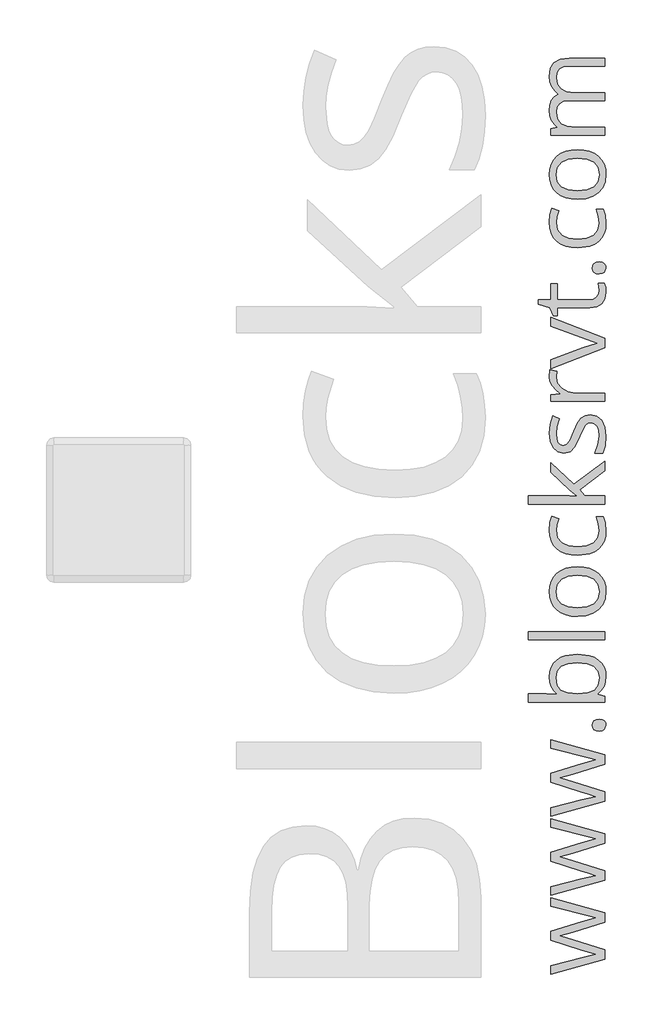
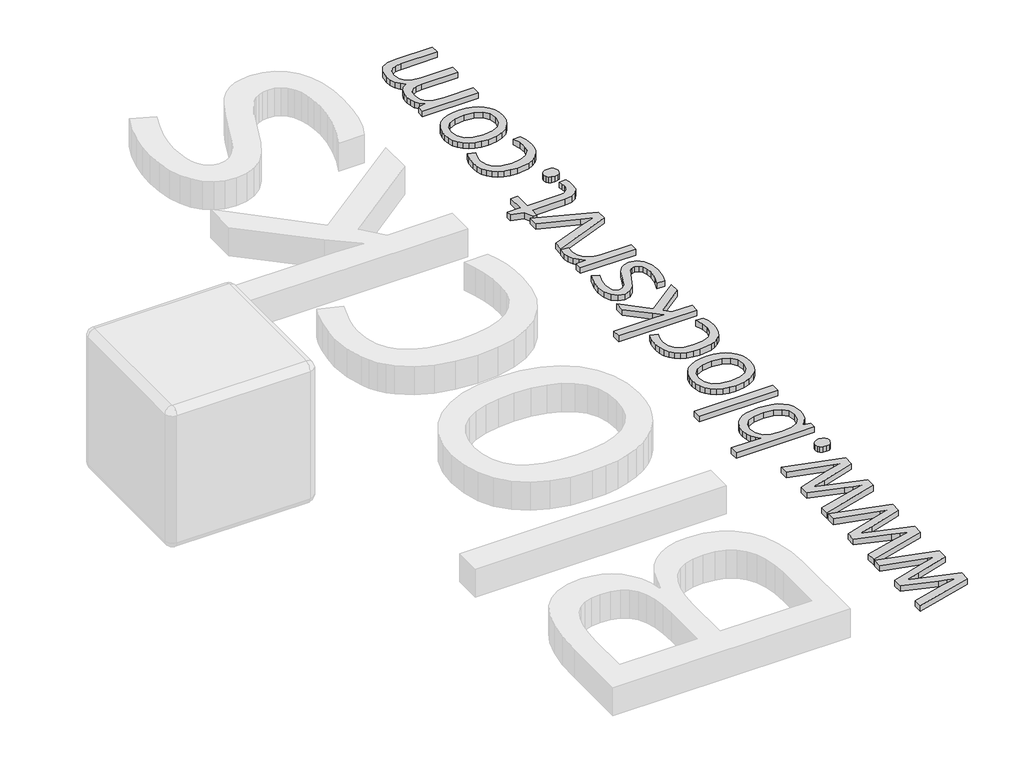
# One storey, part 8 of 8: 1 proxy.
"""IFC4 building model written with IfcOpenShell, lengths in millimetres."""

from ifc_helpers import new_model, si_unit, origin, origin_with_axes, place, context, project, spatial, polyline, outline, extrude, element, save

model = new_model("IFC4")

# Units and contexts
model_context = context("Model", 3, world=origin())
ifc_project = project(units=[si_unit("LENGTHUNIT", "METRE", prefix="MILLI")], contexts=[model_context])

# Site, building, storey
site = spatial("IfcSite", under=ifc_project)
building = spatial("IfcBuilding", under=site)
storey = spatial("IfcBuildingStorey", under=building, Name="PORTOBELLO - SHOWROOM", Elevation=0.0)

# Proxy
placement = place(None, origin())
element("IfcBuildingElementProxy", 1, Name="25mm OpenSans", ObjectType="25mm OpenSans", at=placement, inside=storey, context=model_context, shape_type="SweptSolid", body=[
    extrude(outline(polyline([(237125.9828814, 6871.3276215), (237016.1712381, 6836.8475151), (236970.4476187, 6824.6295643), (237016.5460218, 6811.2123055), (237125.9828814, 6775.6828045), (237125.9828814, 6742.7767899), (236938.8908256, 6691.431414), (236938.8908256, 6721.2642018), (237046.2288961, 6748.9982004), (237095.9252234, 6759.9418864), (237070.7397544, 6767.3626049), (237046.2288961, 6774.7083667), (236938.8908256, 6809.1884732), (236938.8908256, 6840.0706555), (237046.3038528, 6873.7262376), (237095.6253964, 6886.7687127), (237076.6613378, 6891.8657719), (236938.8908256, 6927.6201431), (236938.8908256, 6957.1531039), (237125.9828814, 6905.1331172), (237125.9828814, 6871.3276215)])), origin_with_axes(), (0.0, 0.0, 1.0), 20.0),
    extrude(outline(polyline([(237125.9828814, 7144.7698569), (237016.1712381, 7110.2897505), (236970.4476187, 7098.0717997), (237016.5460218, 7084.6545409), (237125.9828814, 7049.12504), (237125.9828814, 7016.2190253), (236938.8908256, 6964.8736494), (236938.8908256, 6994.7064372), (237046.2288961, 7022.4404358), (237095.9252234, 7033.3841218), (237070.7397544, 7040.8048404), (237046.2288961, 7048.1506022), (236938.8908256, 7082.6307086), (236938.8908256, 7113.5128909), (237046.3038528, 7147.168473), (237095.6253964, 7160.2109481), (237076.6613378, 7165.3080073), (236938.8908256, 7201.0623786), (236938.8908256, 7230.5953393), (237125.9828814, 7178.5753526), (237125.9828814, 7144.7698569)])), origin_with_axes(), (0.0, 0.0, 1.0), 20.0),
    extrude(outline(polyline([(237125.9828814, 7418.2120924), (237016.1712381, 7383.7319859), (236970.4476187, 7371.5140352), (237016.5460218, 7358.0967764), (237125.9828814, 7322.5672754), (237125.9828814, 7289.6612608), (236938.8908256, 7238.3158849), (236938.8908256, 7268.1486726), (237046.2288961, 7295.8826713), (237095.9252234, 7306.8263572), (237070.7397544, 7314.2470758), (237046.2288961, 7321.5928376), (236938.8908256, 7356.072944), (236938.8908256, 7386.9551263), (237046.3038528, 7420.6107085), (237095.6253964, 7433.6531835), (237076.6613378, 7438.7502427), (236938.8908256, 7474.504614), (236938.8908256, 7504.0375747), (237125.9828814, 7452.017588), (237125.9828814, 7418.2120924)])), origin_with_axes(), (0.0, 0.0, 1.0), 20.0),
    extrude(outline(polyline([(237106.8689094, 7533.1957517), (237096.4592903, 7534.4981253), (237088.916767, 7538.405246), (237084.3350355, 7544.7484613), (237082.8077916, 7553.3591183), (237084.3350355, 7562.2227543), (237088.916767, 7568.8751662), (237096.4592903, 7573.035266), (237106.8689094, 7574.4219659), (237117.0723974, 7573.0071572), (237124.5961815, 7568.762731), (237129.2341306, 7562.0822104), (237130.7801136, 7553.3591183), (237125.1958355, 7538.9299433), (237117.8219649, 7534.6292996), (237106.8689094, 7533.1957517)])), origin_with_axes(), (0.0, 0.0, 1.0), 20.0),
    extrude(outline(polyline([(236934.0935934, 7721.5620723), (236935.6934516, 7739.1464581), (236940.4930262, 7754.6461092), (236948.4923172, 7768.0610256), (236959.6913246, 7779.3912073), (236973.8136454, 7788.3930449), (236990.5828765, 7794.8229289), (237032.0620697, 7799.9668361), (237073.6818069, 7794.7760809), (237090.5705004, 7788.287637), (237104.845077, 7779.2038155), (237116.1916555, 7767.8197586), (237124.2963545, 7754.4306085), (237129.1591738, 7739.0363654), (237130.7801136, 7721.637029), (237129.0654779, 7703.9940833), (237123.9215707, 7687.9439685), (237115.2172177, 7673.9364253), (237102.8212447, 7662.4211941), (237102.8212447, 7660.322405), (237125.9828814, 7654.3258647), (237125.9828814, 7634.0125846), (236862.1351104, 7634.0125846), (236862.1351104, 7662.3462373), (236924.7239993, 7662.3462373), (236962.5022028, 7660.9970158), (236950.0734362, 7673.5522719), (236941.1957458, 7687.1569226), (236935.8691315, 7703.1601894), (236934.0935934, 7721.5620723)]), holes=[polyline([(236958.0797544, 7717.5893644), (236962.3148109, 7692.319569), (236975.0199806, 7675.2762772), (236997.750616, 7665.5787473), (237032.0620697, 7662.3462373), (237066.5140674, 7665.6724432), (237089.516421, 7675.651061), (237102.4745697, 7692.9567014), (237106.7939526, 7718.2639752), (237101.9498724, 7741.3412855), (237087.4176319, 7757.6537489), (237063.8156243, 7767.3512789), (237031.7622427, 7770.5837888), (236999.3153382, 7767.3512789), (236976.3317238, 7757.6537489), (236962.6427467, 7741.1726328), (236958.0797544, 7717.5893644)])]), origin_with_axes(), (0.0, 0.0, 1.0), 20.0),
    extrude(outline(polyline([(237125.9828814, 7877.2472485), (237125.9828814, 7848.9135959), (236862.1351104, 7848.9135959), (236862.1351104, 7877.2472485), (237125.9828814, 7877.2472485)])), origin_with_axes(), (0.0, 0.0, 1.0), 20.0),
    extrude(outline(polyline([(237032.28694, 8102.1924647), (237054.2141327, 8100.7518896), (237073.5974806, 8096.4301643), (237090.4369836, 8089.2272888), (237104.7326419, 8079.1432631), (237116.1284108, 8066.5247622), (237124.2682457, 8051.7184611), (237129.1521466, 8034.7243597), (237130.7801136, 8015.5424581), (237127.7912131, 7991.8467545), (237118.8245115, 7970.9806683), (237104.2735318, 7953.7499847), (237084.5317969, 7940.9604887), (237060.3020265, 7933.0338121), (237032.28694, 7930.3915865), (237010.3691169, 7931.8204496), (236991.0138778, 7936.1070389), (236974.2212227, 7943.2513545), (236959.9911516, 7953.2533962), (236948.6609699, 7965.794598), (236940.5679829, 7980.5563935), (236935.7121908, 7997.5387829), (236934.0935934, 8016.7417661), (236935.7496692, 8035.3380681), (236940.7178965, 8051.9245921), (236948.9982753, 8066.5013382), (236960.5908056, 8079.0683064), (236975.0082686, 8089.1851256), (236991.7634453, 8096.4114251), (237010.8563358, 8100.7472048), (237032.28694, 8102.1924647)]), holes=[polyline([(237032.0620697, 7959.8495905), (237064.2185168, 7963.4287755), (237087.6799806, 7974.1663303), (237102.0154596, 7991.8373849), (237106.7939526, 8016.2170689), (237102.0341988, 8040.615492), (237087.7549373, 8058.3427641), (237064.3122128, 8069.1365366), (237032.0620697, 8072.7344607), (237000.1398625, 8069.1365366), (236976.9313778, 8058.3427641), (236962.7926602, 8040.5217961), (236958.0797544, 8015.8422851), (236962.7270731, 7991.5094491), (236976.6690292, 7973.9789385), (236999.8119267, 7963.3819275), (237032.0620697, 7959.8495905)])]), origin_with_axes(), (0.0, 0.0, 1.0), 20.0),
    extrude(outline(polyline([(237130.7801136, 8227.5951127), (237129.1943098, 8208.2515856), (237124.4368984, 8191.2223482), (237116.5078793, 8176.5074006), (237105.4072527, 8164.1067428), (237091.4067366, 8154.2686689), (237074.7780494, 8147.2414733), (237033.6361616, 8141.6197168), (237011.1889564, 8143.0462375), (236991.4448791, 8147.3257997), (236974.4039298, 8154.4584032), (236960.0661084, 8164.4440482), (236948.7031331, 8177.0672339), (236940.5867221, 8192.1124597), (236935.7168756, 8209.5797255), (236934.0935934, 8229.4690315), (236936.8669933, 8256.7158113), (236943.3882308, 8278.0410075), (236966.8496945, 8269.2710674), (236960.5908056, 8248.5455252), (236958.0797544, 8228.719464), (236962.7692363, 8203.5012013), (236976.8376819, 8185.4881566), (237000.2850912, 8174.6803298), (237033.1114643, 8171.0777208), (237064.5745614, 8174.5913186), (237087.7549373, 8185.132112), (237102.0341988, 8202.5689267), (237106.7939526, 8226.7705884), (237104.2641622, 8250.7380102), (237096.6747909, 8275.2676077), (237121.3355627, 8275.2676077), (237128.4189759, 8253.8674547), (237130.7801136, 8227.5951127)])), origin_with_axes(), (0.0, 0.0, 1.0), 20.0),
    extrude(outline(polyline([(237032.1370265, 8346.8513069), (237004.2531143, 8369.7131166), (236938.8908256, 8429.6785191), (236938.8908256, 8463.0342743), (237018.6448109, 8387.7776941), (237125.9828814, 8468.281247), (237125.9828814, 8434.1759243), (237039.6327018, 8368.5887653), (237057.6223226, 8347.6008744), (237125.9828814, 8347.6008744), (237125.9828814, 8319.5670488), (236862.1351104, 8319.5670488), (236862.1351104, 8347.6008744), (237003.128763, 8347.6008744), (237032.1370265, 8346.8513069)])), origin_with_axes(), (0.0, 0.0, 1.0), 20.0),
    extrude(outline(polyline([(237075.5369866, 8628.5387852), (237099.0265591, 8623.6384874), (237116.4258954, 8608.9375942), (237127.1915591, 8585.3918042), (237130.7801136, 8553.9568158), (237127.8193219, 8520.6572782), (237118.9369466, 8495.5655051), (237092.402256, 8495.5655051), (237102.9336798, 8524.7236821), (237106.7939526, 8554.7063833), (237105.0137297, 8574.523075), (237099.6730611, 8589.1490114), (237090.6782507, 8598.1719306), (237077.9356027, 8601.1795703), (237067.6477883, 8598.7903238), (237058.9715441, 8591.6225843), (237040.3822693, 8554.4065563), (237023.1422161, 8517.0031365), (237006.4643385, 8500.4751725), (236984.0897477, 8495.0408079), (236963.3642055, 8499.7256049), (236947.5108522, 8513.7799961), (236937.4479081, 8536.0046734), (236934.0935934, 8565.2003288), (236937.2042986, 8595.2392476), (236946.5364144, 8624.641034), (236969.6980511, 8614.4469156), (236960.9843286, 8587.3875277), (236958.0797544, 8563.0265829), (236959.681955, 8545.2056149), (236964.4885568, 8532.3692709), (236972.124776, 8524.611247), (236982.2158289, 8522.025239), (236995.2208256, 8525.8855118), (237005.414944, 8538.3658112), (237019.4693352, 8571.4217393), (237031.7997211, 8599.5024129), (237044.2050637, 8616.7330966), (237058.259455, 8625.587363), (237075.5369866, 8628.5387852)])), origin_with_axes(), (0.0, 0.0, 1.0), 20.0),
    extrude(outline(polyline([(236934.0935934, 8760.987368), (236935.9675122, 8783.6243074), (236960.628284, 8779.6515995), (236958.0797544, 8758.9635356), (236962.7739211, 8737.6289698), (236976.8564211, 8719.6487186), (236997.9473775, 8707.4213983), (237023.6669134, 8703.3456248), (237125.9828814, 8703.3456248), (237125.9828814, 8675.0119721), (236938.8908256, 8675.0119721), (236938.8908256, 8698.3984791), (236972.471451, 8701.6216195), (236956.149618, 8714.607877), (236944.0628416, 8728.3811804), (236936.5859054, 8743.9534458), (236934.0935934, 8760.987368)])), origin_with_axes(), (0.0, 0.0, 1.0), 20.0),
    extrude(outline(polyline([(237125.9828814, 8860.6048929), (236938.8908256, 8788.6464099), (236938.8908256, 8819.4536354), (237049.8268202, 8860.3050659), (237100.3476718, 8876.4957245), (237062.8692953, 8889.9129833), (236938.8908256, 8935.3367757), (236938.8908256, 8966.1440013), (237125.9828814, 8894.1855183), (237125.9828814, 8860.6048929)])), origin_with_axes(), (0.0, 0.0, 1.0), 20.0),
    extrude(outline(polyline([(237106.7939526, 9057.5162833), (237105.6696013, 9072.207807), (237103.345942, 9083.4513199), (237125.5331409, 9083.4513199), (237129.2809785, 9069.7342341), (237130.7801136, 9053.4686187), (237127.2196678, 9029.4637185), (237116.5383305, 9012.3173612), (237098.7361016, 9002.0295468), (237073.8129812, 8998.6002754), (236962.8769866, 8998.6002754), (236962.8769866, 8971.4659308), (236948.8600738, 8971.4659308), (236936.7170798, 8998.4503619), (236895.7157358, 9010.5183991), (236895.7157358, 9027.0088848), (236938.8908256, 9027.0088848), (236938.8908256, 9082.1020984), (236962.8769866, 9082.1020984), (236962.8769866, 9027.0088848), (237072.0889759, 9027.0088848), (237086.9210434, 9029.0420868), (237097.8366206, 9035.1416925), (237104.5546196, 9044.8017441), (237106.7939526, 9057.5162833)])), origin_with_axes(), (0.0, 0.0, 1.0), 20.0),
    extrude(outline(polyline([(237106.8689094, 9116.2823778), (237096.4592903, 9117.5847514), (237088.916767, 9121.4918721), (237084.3350355, 9127.8350874), (237082.8077916, 9136.4457444), (237084.3350355, 9145.3093805), (237088.916767, 9151.9617923), (237096.4592903, 9156.1218921), (237106.8689094, 9157.508592), (237117.0723974, 9156.0937833), (237124.5961815, 9151.8493572), (237129.2341306, 9145.1688365), (237130.7801136, 9136.4457444), (237125.1958355, 9122.0165694), (237117.8219649, 9117.7159257), (237106.8689094, 9116.2823778)])), origin_with_axes(), (0.0, 0.0, 1.0), 20.0),
    extrude(outline(polyline([(237130.7801136, 9292.5806612), (237129.1943098, 9273.2371341), (237124.4368984, 9256.2078967), (237116.5078793, 9241.4929491), (237105.4072527, 9229.0922913), (237091.4067366, 9219.2542174), (237074.7780494, 9212.2270218), (237033.6361616, 9206.6052653), (237011.1889564, 9208.031786), (236991.4448791, 9212.3113482), (236974.4039298, 9219.4439517), (236960.0661084, 9229.4295967), (236948.7031331, 9242.0527824), (236940.5867221, 9257.0980082), (236935.7168756, 9274.565274), (236934.0935934, 9294.45458), (236936.8669933, 9321.7013598), (236943.3882308, 9343.026556), (236966.8496945, 9334.2566159), (236960.5908056, 9313.5310737), (236958.0797544, 9293.7050125), (236962.7692363, 9268.4867498), (236976.8376819, 9250.4737051), (237000.2850912, 9239.6658783), (237033.1114643, 9236.0632693), (237064.5745614, 9239.5768671), (237087.7549373, 9250.1176605), (237102.0341988, 9267.5544752), (237106.7939526, 9291.7561369), (237104.2641622, 9315.7235587), (237096.6747909, 9340.2531562), (237121.3355627, 9340.2531562), (237128.4189759, 9318.8530031), (237130.7801136, 9292.5806612)])), origin_with_axes(), (0.0, 0.0, 1.0), 20.0),
    extrude(outline(polyline([(237032.28694, 9546.159357), (237054.2141327, 9544.7187819), (237073.5974806, 9540.3970566), (237090.4369836, 9533.1941811), (237104.7326419, 9523.1101554), (237116.1284108, 9510.4916545), (237124.2682457, 9495.6853534), (237129.1521466, 9478.691252), (237130.7801136, 9459.5093504), (237127.7912131, 9435.8136468), (237118.8245115, 9414.9475607), (237104.2735318, 9397.716877), (237084.5317969, 9384.927381), (237060.3020265, 9377.0007044), (237032.28694, 9374.3584788), (237010.3691169, 9375.7873419), (236991.0138778, 9380.0739313), (236974.2212227, 9387.2182468), (236959.9911516, 9397.2202885), (236948.6609699, 9409.7614903), (236940.5679829, 9424.5232859), (236935.7121908, 9441.5056752), (236934.0935934, 9460.7086584), (236935.7496692, 9479.3049604), (236940.7178965, 9495.8914844), (236948.9982753, 9510.4682305), (236960.5908056, 9523.0351987), (236975.0082686, 9533.1520179), (236991.7634453, 9540.3783174), (237010.8563358, 9544.7140971), (237032.28694, 9546.159357)]), holes=[polyline([(237032.0620697, 9403.8164828), (237064.2185168, 9407.3956678), (237087.6799806, 9418.1332227), (237102.0154596, 9435.8042772), (237106.7939526, 9460.1839612), (237102.0341988, 9484.5823843), (237087.7549373, 9502.3096564), (237064.3122128, 9513.1034289), (237032.0620697, 9516.701353), (237000.1398625, 9513.1034289), (236976.9313778, 9502.3096564), (236962.7926602, 9484.4886884), (236958.0797544, 9459.8091774), (236962.7270731, 9435.4763414), (236976.6690292, 9417.9458308), (236999.8119267, 9407.3488198), (237032.0620697, 9403.8164828)])]), origin_with_axes(), (0.0, 0.0, 1.0), 20.0),
    extrude(outline(polyline([(237125.9828814, 9835.1925971), (237003.2037198, 9835.1925971), (236983.4619849, 9832.793981), (236969.3607457, 9825.5981327), (236960.9000022, 9813.3427035), (236958.0797544, 9795.7653449), (236961.9119184, 9772.6974042), (236973.4084104, 9756.5629631), (236992.8690574, 9747.0621946), (237020.5936865, 9743.8952718), (237125.9828814, 9743.8952718), (237125.9828814, 9715.4866623), (237003.2037198, 9715.4866623), (236983.4619849, 9713.0880462), (236969.3607457, 9705.8921979), (236960.9000022, 9693.5992904), (236958.0797544, 9675.9094967), (236962.1086799, 9652.7291208), (236974.1954563, 9636.7071148), (236995.4456958, 9627.374999), (237026.9650105, 9624.2642938), (237125.9828814, 9624.2642938), (237125.9828814, 9595.9306411), (236938.8908256, 9595.9306411), (236938.8908256, 9619.0173211), (236962.8769866, 9623.589683), (236950.7995797, 9634.6739129), (236941.7017038, 9647.6882791), (236935.995621, 9663.2136966), (236934.0935934, 9680.4818586), (236936.0612082, 9700.5796381), (236941.9640525, 9716.8733623), (236951.8021263, 9729.3630313), (236965.5754297, 9738.048645), (236952.5516939, 9749.6763114), (236942.5637065, 9763.721333), (236936.2111217, 9780.7646247), (236934.0935934, 9800.0378799), (236938.1974756, 9827.8936832), (236950.5091223, 9847.7478532), (236971.8530578, 9859.6378682), (237003.0538063, 9863.6012065), (237125.9828814, 9863.6012065), (237125.9828814, 9835.1925971)])), origin_with_axes(), (0.0, 0.0, 1.0), 20.0),
])

save(model, "model.ifc")
